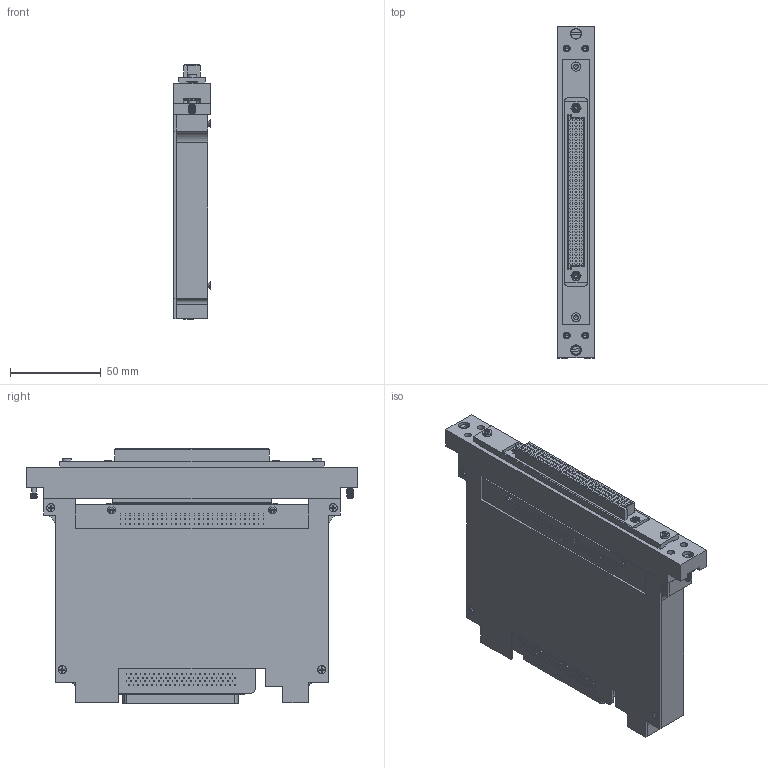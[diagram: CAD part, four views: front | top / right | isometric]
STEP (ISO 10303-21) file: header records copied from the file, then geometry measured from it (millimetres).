
FILE_DESCRIPTION(/* description */ (''),/* implementation_level */ '2;1');
FILE_NAME(/* name */ 'F:\CAD\CAD COMPLETE\web site project\DAKs\561021-RevD-STP\561021-RevD-STP.stp',/* time_stamp */ '2015-03-31T16:09:53+01:00',/* author */ ('davecooper'),/* organization */ (''),/* preprocessor_version */ 'ST-DEVELOPER v15.2',/* originating_system */ 'Autodesk Inventor 2014',/* authorisation */ '');
FILE_SCHEMA (('AUTOMOTIVE_DESIGN { 1 0 10303 214 3 1 1 }'));
Products named in the file (1): 561021-CU
Bounding box: 20.12 x 183.26 x 140.4 mm (x, y, z)
Surface area: 126185.3 mm2 (no closed solid volume)
Topology: 0 solids, 40 shells, 4478 faces, 11300 edges, 7424 vertices
Faces by surface type: plane 4031, cylinder 202, bspline 165, cone 78, torus 2
Full cylindrical faces by diameter (mm): 0.005 x4, 0.01 x4, 2.184 x22, 2.372 x1, 2.381 x2, 2.413 x1, 2.438 x8, 2.54 x5, 2.769 x2, 2.794 x2, 2.845 x14, 2.946 x4, 2.997 x1, 3.429 x2, 3.505 x2, 3.556 x2, 3.734 x5, 3.962 x4, 4.064 x2, 4.191 x2, 4.572 x1, 4.762 x2, 4.851 x1, 5.08 x2, 5.537 x2, 5.953 x2
Entity records: 140456 total; most frequent: CARTESIAN_POINT 29973, ORIENTED_EDGE 22150, DIRECTION 19685, EDGE_CURVE 11075, LINE 10119, VECTOR 10119, VERTEX_POINT 7353, EDGE_LOOP 5394
